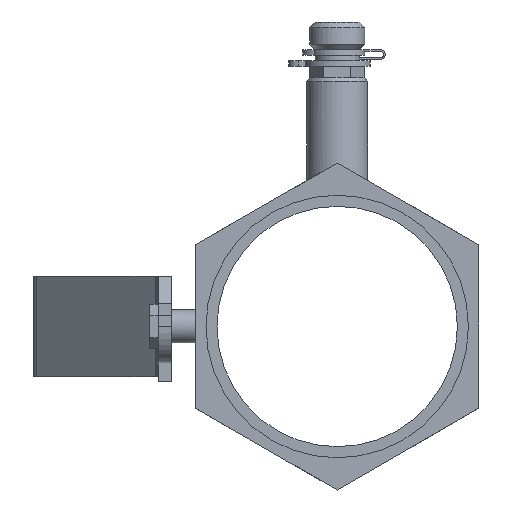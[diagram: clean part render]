
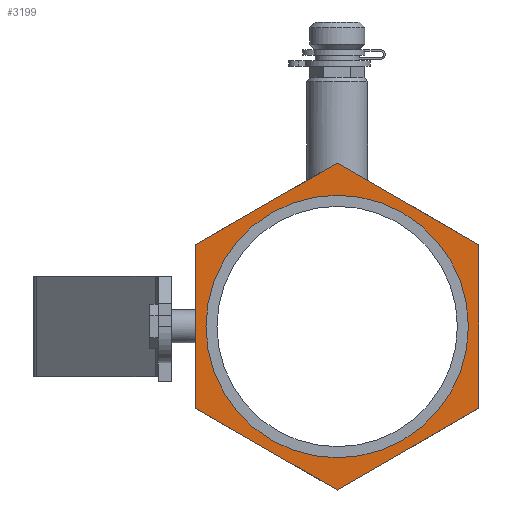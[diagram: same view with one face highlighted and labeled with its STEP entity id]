
A CAD part, left-side view. The second image highlights one B-rep face of the part: STEP entity #3199.
In plain terms, the highlighted planar face has unit normal (-1, 0, 0).
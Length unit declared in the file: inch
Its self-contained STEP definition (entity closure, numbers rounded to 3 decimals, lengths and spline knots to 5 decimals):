
#81=FACE_BOUND('',#525,.T.);
#181=PLANE('',#3497);
#339=FACE_OUTER_BOUND('',#524,.T.);
#524=EDGE_LOOP('',(#2724,#2725,#2726,#2727,#2728,#2729));
#525=EDGE_LOOP('',(#2730,#2731));
#664=CIRCLE('',#3498,1.1875);
#665=CIRCLE('',#3499,1.1875);
#876=LINE('',#5175,#1180);
#881=LINE('',#5185,#1185);
#893=LINE('',#5221,#1197);
#896=LINE('',#5226,#1200);
#898=LINE('',#5229,#1202);
#899=LINE('',#5231,#1203);
#1180=VECTOR('',#4176,0.3937);
#1185=VECTOR('',#4183,0.3937);
#1197=VECTOR('',#4221,0.3937);
#1200=VECTOR('',#4226,0.3937);
#1202=VECTOR('',#4230,0.3937);
#1203=VECTOR('',#4233,0.3937);
#1481=VERTEX_POINT('',#5173);
#1482=VERTEX_POINT('',#5174);
#1486=VERTEX_POINT('',#5184);
#1496=VERTEX_POINT('',#5219);
#1497=VERTEX_POINT('',#5220);
#1498=VERTEX_POINT('',#5225);
#1517=VERTEX_POINT('',#5296);
#1518=VERTEX_POINT('',#5297);
#1868=EDGE_CURVE('',#1481,#1482,#876,.T.);
#1873=EDGE_CURVE('',#1486,#1481,#881,.T.);
#1891=EDGE_CURVE('',#1496,#1497,#893,.T.);
#1894=EDGE_CURVE('',#1498,#1496,#896,.T.);
#1896=EDGE_CURVE('',#1482,#1498,#898,.T.);
#1897=EDGE_CURVE('',#1497,#1486,#899,.T.);
#1929=EDGE_CURVE('',#1517,#1518,#664,.T.);
#1930=EDGE_CURVE('',#1518,#1517,#665,.T.);
#2724=ORIENTED_EDGE('',*,*,#1896,.T.);
#2725=ORIENTED_EDGE('',*,*,#1894,.T.);
#2726=ORIENTED_EDGE('',*,*,#1891,.T.);
#2727=ORIENTED_EDGE('',*,*,#1897,.T.);
#2728=ORIENTED_EDGE('',*,*,#1873,.T.);
#2729=ORIENTED_EDGE('',*,*,#1868,.T.);
#2730=ORIENTED_EDGE('',*,*,#1929,.F.);
#2731=ORIENTED_EDGE('',*,*,#1930,.F.);
#3199=ADVANCED_FACE('',(#339,#81),#181,.T.);
#3497=AXIS2_PLACEMENT_3D('',#5295,#4299,#4300);
#3498=AXIS2_PLACEMENT_3D('',#5298,#4301,#4302);
#3499=AXIS2_PLACEMENT_3D('',#5299,#4303,#4304);
#4176=DIRECTION('',(0.,0.,1.));
#4183=DIRECTION('',(0.,-0.866,0.5));
#4221=DIRECTION('',(0.,0.,-1.));
#4226=DIRECTION('',(0.,0.866,-0.5));
#4230=DIRECTION('',(0.,0.866,0.5));
#4233=DIRECTION('',(0.,-0.866,-0.5));
#4299=DIRECTION('center_axis',(-1.,0.,0.));
#4300=DIRECTION('ref_axis',(0.,0.,1.));
#4301=DIRECTION('center_axis',(-1.,0.,0.));
#4302=DIRECTION('ref_axis',(0.,0.,1.));
#4303=DIRECTION('center_axis',(-1.,0.,0.));
#4304=DIRECTION('ref_axis',(0.,0.,1.));
#5173=CARTESIAN_POINT('',(-2.065,-1.281,-0.73959));
#5174=CARTESIAN_POINT('',(-2.065,-1.281,0.73959));
#5175=CARTESIAN_POINT('',(-2.065,-1.281,-0.73959));
#5184=CARTESIAN_POINT('',(-2.065,0.,-1.47917));
#5185=CARTESIAN_POINT('',(-2.065,0.,-1.47917));
#5219=CARTESIAN_POINT('',(-2.065,1.281,0.73959));
#5220=CARTESIAN_POINT('',(-2.065,1.281,-0.73959));
#5221=CARTESIAN_POINT('',(-2.065,1.281,0.73959));
#5225=CARTESIAN_POINT('',(-2.065,0.,1.47917));
#5226=CARTESIAN_POINT('',(-2.065,0.,1.47917));
#5229=CARTESIAN_POINT('',(-2.065,-1.281,0.73959));
#5231=CARTESIAN_POINT('',(-2.065,1.281,-0.73959));
#5295=CARTESIAN_POINT('Origin',(-2.065,1.1875,0.));
#5296=CARTESIAN_POINT('',(-2.065,0.,-1.1875));
#5297=CARTESIAN_POINT('',(-2.065,-1.1875,0.));
#5298=CARTESIAN_POINT('Origin',(-2.065,0.,0.));
#5299=CARTESIAN_POINT('Origin',(-2.065,0.,0.));
